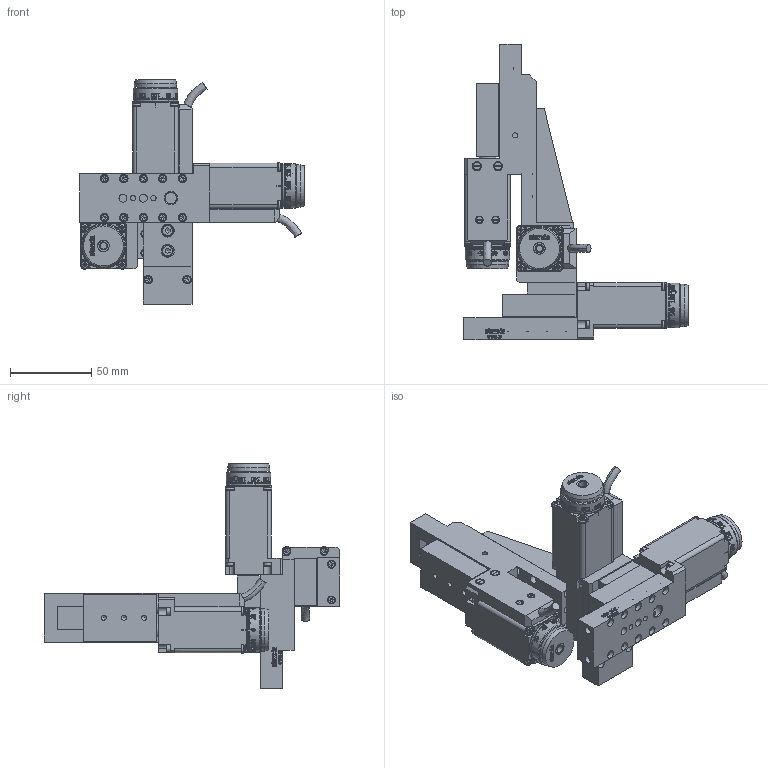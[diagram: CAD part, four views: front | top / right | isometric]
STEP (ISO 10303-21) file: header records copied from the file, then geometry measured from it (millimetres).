
FILE_DESCRIPTION(/* description */ (''),/* implementation_level */ '2;1');
FILE_NAME(/* name */ 'U:\KONSTRUKTORIAI\DOKUMENTACIJA\8\8MT173\8MT173-20\STEP\8MT173-20XYZ SB.stp',/* time_stamp */ '2021-01-21T13:34:06+02:00',/* author */ ('dsgn36'),/* organization */ (''),/* preprocessor_version */ 'ST-DEVELOPER v15.2',/* originating_system */ 'Autodesk Inventor 2014',/* authorisation */ '');
FILE_SCHEMA (('CONFIG_CONTROL_DESIGN'));
Products named in the file (2): Part5; 8MT173-20XYZ SB
Bounding box: 138 x 181.75 x 138 mm (x, y, z)
Volume: 363312.2 mm3; surface area: 95161.5 mm2
Topology: 1 solids, 1 shells, 5003 faces, 13699 edges, 9010 vertices
Faces by surface type: plane 2737, bspline 1068, cylinder 775, cone 275, torus 112, sphere 36
Full cylindrical faces by diameter (mm): 2 x2, 3.2 x8, 3.242 x9, 4.4 x2, 4.5 x37, 4.8 x6, 4.917 x6, 5 x11, 5.2 x14, 7 x9, 7.1 x3, 7.2 x3, 7.5 x9, 8 x2, 9 x3, 11 x3, 22 x3, 26 x3, 27.5 x3
Entity records: 355411 total; most frequent: CARTESIAN_POINT 240774, ORIENTED_EDGE 26514, DIRECTION 19110, EDGE_CURVE 13257, VERTEX_POINT 8872, LINE 6536, VECTOR 6536, AXIS2_PLACEMENT_3D 6287
